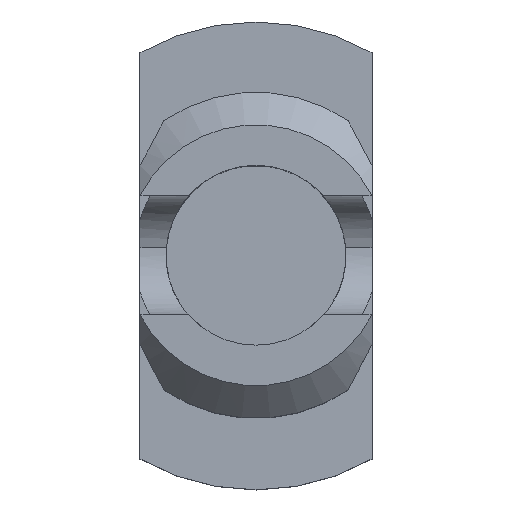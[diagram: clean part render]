
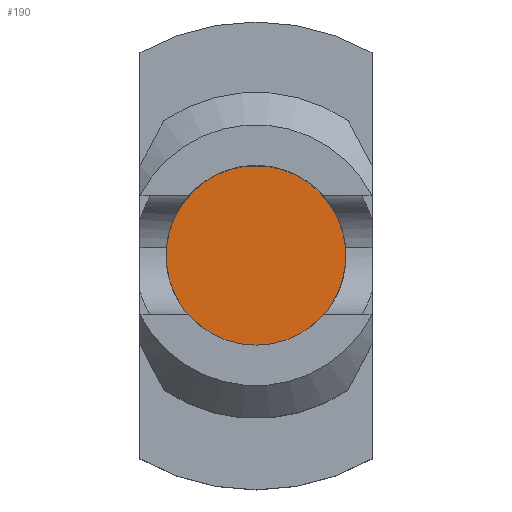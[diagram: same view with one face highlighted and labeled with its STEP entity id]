
A CAD part, top view. The second image highlights one B-rep face of the part: STEP entity #190.
In plain terms, the highlighted planar face has unit normal (0, 0, 1).
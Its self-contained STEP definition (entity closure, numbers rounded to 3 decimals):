
#190 = ADVANCED_FACE( '', ( #392 ), #393, .F. );
#392 = FACE_OUTER_BOUND( '', #603, .T. );
#393 = PLANE( '', #604 );
#603 = EDGE_LOOP( '', ( #1122, #1123 ) );
#604 = AXIS2_PLACEMENT_3D( '', #1124, #1125, #1126 );
#1122 = ORIENTED_EDGE( '', *, *, #1510, .F. );
#1123 = ORIENTED_EDGE( '', *, *, #1416, .F. );
#1124 = CARTESIAN_POINT( '', ( 0., 0., 14.1 ) );
#1125 = DIRECTION( '', ( 0., 0., -1. ) );
#1126 = DIRECTION( '', ( -1., 0., 0. ) );
#1416 = EDGE_CURVE( '', #1583, #1552, #1745, .T. );
#1510 = EDGE_CURVE( '', #1552, #1583, #1872, .T. );
#1552 = VERTEX_POINT( '', #1926 );
#1583 = VERTEX_POINT( '', #1995 );
#1745 = CIRCLE( '', #2339, 2. );
#1872 = CIRCLE( '', #2528, 2. );
#1926 = CARTESIAN_POINT( '', ( 1.992, 0.175, 14.1 ) );
#1995 = CARTESIAN_POINT( '', ( -1.992, 0.175, 14.1 ) );
#2339 = AXIS2_PLACEMENT_3D( '', #2686, #2687, #2688 );
#2528 = AXIS2_PLACEMENT_3D( '', #2793, #2794, #2795 );
#2686 = CARTESIAN_POINT( '', ( 0., 0., 14.1 ) );
#2687 = DIRECTION( '', ( 0., 0., -1. ) );
#2688 = DIRECTION( '', ( 0., 1., 0. ) );
#2793 = CARTESIAN_POINT( '', ( 0., 0., 14.1 ) );
#2794 = DIRECTION( '', ( 0., 0., -1. ) );
#2795 = DIRECTION( '', ( 0., 1., 0. ) );
